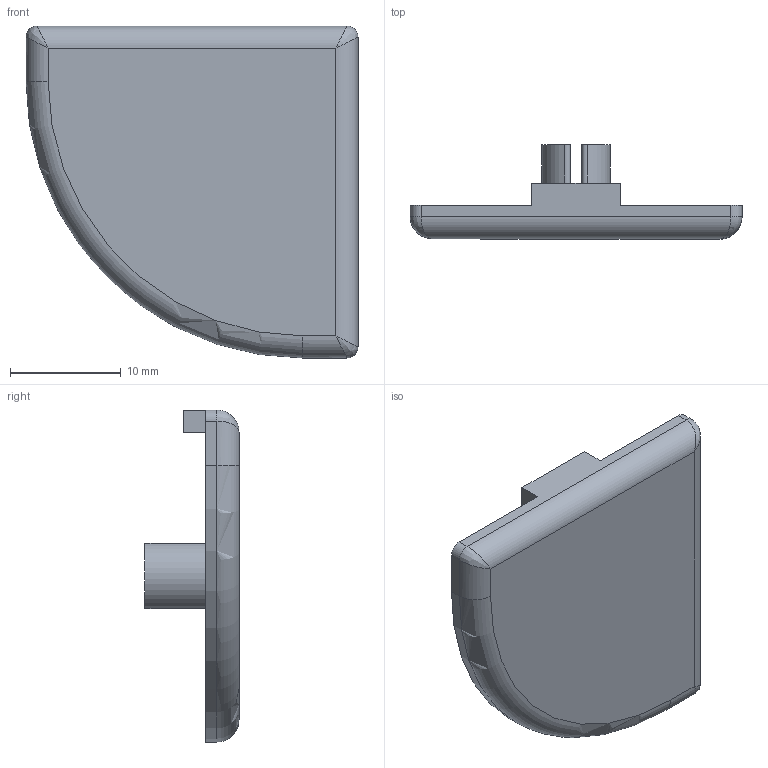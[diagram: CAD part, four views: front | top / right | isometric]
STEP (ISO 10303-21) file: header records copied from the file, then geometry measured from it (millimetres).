
FILE_DESCRIPTION (( 'STEP AP203' ), '1' );
FILE_NAME ('4012.STEP', '2017-08-10T06:17:54', ( '' ), ( '' ), 'SwSTEP 2.0', 'SolidWorks 2014', '' );
FILE_SCHEMA (( 'CONFIG_CONTROL_DESIGN' ));
Length unit declared in the file: millimetre
Products named in the file (2): 4012
Bounding box: 30 x 8.5 x 30 mm (x, y, z)
Volume: 1523.4 mm3; surface area: 2156 mm2
Topology: 1 solids, 1 shells, 48 faces, 124 edges, 77 vertices
Faces by surface type: cylinder 26, plane 18, bspline 3, torus 1
Entity records: 1710 total; most frequent: CARTESIAN_POINT 389, DIRECTION 256, ORIENTED_EDGE 242, EDGE_CURVE 121, AXIS2_PLACEMENT_3D 94, VERTEX_POINT 77, VECTOR 68, LINE 68
